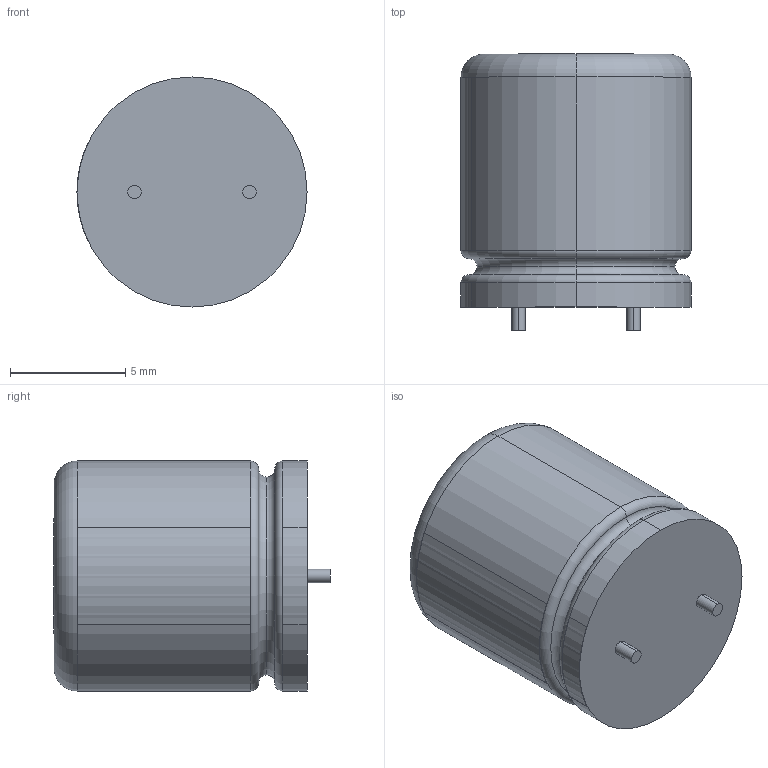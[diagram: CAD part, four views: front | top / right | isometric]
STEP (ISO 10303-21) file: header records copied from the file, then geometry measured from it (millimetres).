
FILE_DESCRIPTION (( 'STEP AP214' ), '1' );
FILE_NAME ( 'CAPPRD500W60D1000H1100P.STEP', '2014-04-11T12:31:23', ( '' ), ( '' ), 'FPX Expert 2013', 'PCB Libraries', '' );
FILE_SCHEMA (( 'AUTOMOTIVE_DESIGN' ));
Length unit declared in the file: millimetre
Products named in the file (1): CAPPRD500W60D1000H1100P
Bounding box: 10 x 12.01 x 10 mm (x, y, z)
Volume: 844.1 mm3; surface area: 628.8 mm2
Topology: 6 solids, 6 shells, 40 faces, 72 edges, 44 vertices
Faces by surface type: plane 16, cylinder 14, torus 10
Entity records: 1164 total; most frequent: DIRECTION 200, CARTESIAN_POINT 157, ORIENTED_EDGE 144, AXIS2_PLACEMENT_3D 87, EDGE_CURVE 72, STYLED_ITEM 47, PRESENTATION_LAYER_ASSIGNMENT 47, MECHANICAL_DESIGN_GEOMETRIC_PRESENTATION_REPRESENTATION 47
